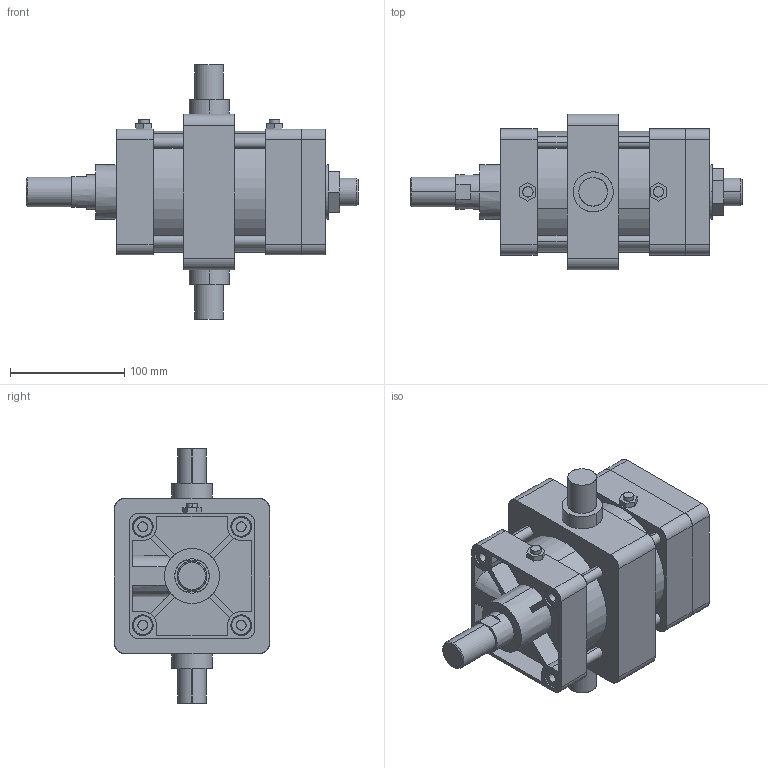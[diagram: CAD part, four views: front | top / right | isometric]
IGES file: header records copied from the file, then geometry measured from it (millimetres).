
Start section: SolidWorks IGES file using analytic representation for surfaces
Global section: file name: C:\Users\Toshiba\Desktop\KGA2-100#-50-T.IGS; native system: SolidWorks 2014; preprocessor: SolidWorks 2014; author: Toshiba; date: 160414.154656; units: millimetre
Bounding box: 290 x 136 x 222 mm (x, y, z)
Surface area: 314044.6 mm2 (no closed solid volume)
Topology: 0 solids, 0 shells, 376 faces, 6517 edges, 6513 vertices
Faces by surface type: bspline 195, revolution 181
